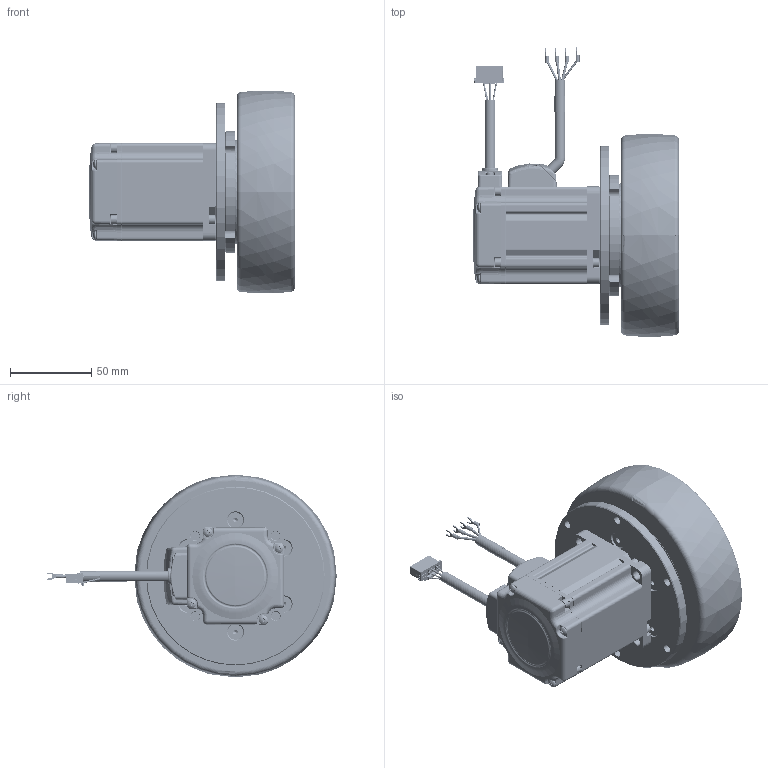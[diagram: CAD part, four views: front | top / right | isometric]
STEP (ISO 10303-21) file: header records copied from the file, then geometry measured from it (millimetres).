
FILE_DESCRIPTION((''),'2;1');
FILE_NAME('MSD125--020-30GSL-N_ASM','2026-05-21T13:47:17',('MS28159'),(''),'CREO PARAMETRIC BY PTC INC, 2018100','CREO PARAMETRIC BY PTC INC, 2018100','');
FILE_SCHEMA(('CONFIG_CONTROL_DESIGN'));
Products named in the file (70): M5-10-6-SOLID10001_1_1; M5-10-3-SOLID10001_1_1; 0226-1-1-SOLID1000_1_1; NONE_1_1_1; M5-10-2-SOLID10001_1_1; M5-10-5-SOLID10001_1_1; M5-10-1-SOLID10001_1_1; M5-10-4-SOLID10001_1_1; 125_X2_8F6E5F84_X0_-9_X2_6BD4_1_ASM; 1_100_1_1; __3_10001_1_1; 3698201102333_80SV__X2_530580_2_ASM; ASM0006_ASM_1_ASM_1_ASM; AEQ092-09-8_43_ASM_1_ASM_1_ASM; MSD125--020-30GL-0001_ASM_1_ASM; NONE-1162; AGV-2-SOLID10001; 4294440100155-5-SOLID1; 4613103300194_A0-1_4294404-7505; 60-165560001; 60-1_5016461600-1-0001; 4294404000418-7-SOLID1; 4294404000418-5-SOLID1; 4713101003XXX-A0-0525-1_BOARD_2; 4294404000400-5-SOLID1; 4294440100155-7-SOLID1; 4613103300194_A0-1_421913000017; 4713101003XXX-A0-0525-1_J1_1-1_; 4294404000400-6-SOLID1; AGV-1-SOLID10001; 4294404000400-2-SOLID1; NONE-76582; 4613103300194_A0-1_369815400004; NONE-80489; 4219120100719-2-SOLID1; 4294440100155-3-SOLID1; AGV-3-SOLID10001; 4294404000400-7-SOLID1; 4613108100087_A0-1_433210120636; 4294404000400-8-SOLID1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
Assembly tree (69 placements, depth 6):
  MSD125--020-30GSL-N_ASM
    MSD125--020-30GL-0001_ASM_1_ASM
      AEQ092-09-8_43_ASM_1_ASM_1_ASM
        125_X2_8F6E5F84_X0_-9_X2_6BD4_1_ASM
          M5-10-6-SOLID10001_1_1
          M5-10-3-SOLID10001_1_1
          0226-1-1-SOLID1000_1_1
          NONE_1_1_1
          M5-10-2-SOLID10001_1_1
          M5-10-5-SOLID10001_1_1
          M5-10-1-SOLID10001_1_1
          M5-10-4-SOLID10001_1_1
        ASM0006_ASM_1_ASM_1_ASM
          3698201102333_80SV__X2_530580_2_ASM
            1_100_1_1
            __3_10001_1_1
    SM0601-SL-KCY-NNV_ASM
      4611170001075_ASM
        NONE-1162
        AGV-2-SOLID10001
        4294440100155-5-SOLID1
        4613103300194_A0-1_4294404-7505
        60-165560001
        60-1_5016461600-1-0001
        4294404000418-7-SOLID1
        4294404000418-5-SOLID1
        4713101003XXX-A0-0525-1_BOARD_2
        4294404000400-5-SOLID1
        4294440100155-7-SOLID1
        4613103300194_A0-1_421913000017
        4713101003XXX-A0-0525-1_J1_1-1_
        4294404000400-6-SOLID1
        AGV-1-SOLID10001
        4294404000400-2-SOLID1
        NONE-76582
        4613103300194_A0-1_369815400004
        NONE-80489
        4219120100719-2-SOLID1
        4294440100155-3-SOLID1
        AGV-3-SOLID10001
        4294404000400-7-SOLID1
        4613108100087_A0-1_433210120636
        4294404000400-8-SOLID1
        4331101000117-1-SOLID1
        4294440100155-4-SOLID1
        AGV-4-SOLID10001
        60-1097090001
        NONE-111261
        4713101003XXX-A0-0525-1_D2_1-1_
        4294404000418-6-SOLID1
        4294440100155-8-SOLID1
        60-1_-1-SOLID0001
        60-1_36981540002850001
        4613103300194_A0-1_421912000004
        4713101003XXX-A0-0525-1_C11_1-1
        4219121300897-1-SOLID1
        4294440100155-9-SOLID1
        4613103300194_A0-1_42944-137769
        4219121500052-1-SOLID2
        NONE-143771
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Bounding box: 126.8 x 178.24 x 124.79 mm (x, y, z)
Volume: 573585.8 mm3; surface area: 240781.9 mm2
Topology: 62 solids, 77 shells, 4352 faces, 11188 edges, 6989 vertices
Faces by surface type: plane 1749, cylinder 1302, cone 467, torus 329, bspline 203, extrusion 167, sphere 135
Entity records: 257785 total; most frequent: CARTESIAN_POINT 152027, ORIENTED_EDGE 22004, DIRECTION 21451, EDGE_CURVE 11002, AXIS2_PLACEMENT_3D 7819, VERTEX_POINT 6989, VECTOR 5813, LINE 5646
